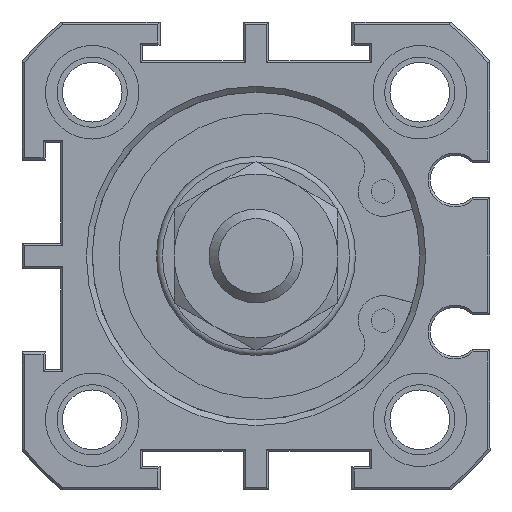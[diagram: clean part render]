
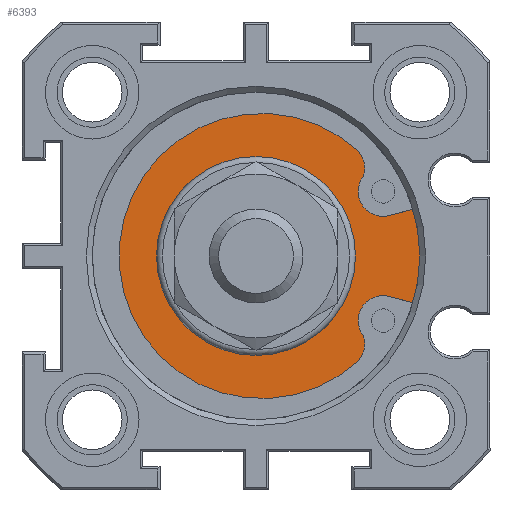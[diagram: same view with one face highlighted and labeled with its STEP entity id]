
A CAD part, front view. The second image highlights one B-rep face of the part: STEP entity #6393.
In plain terms, the highlighted planar face has unit normal (0, -1, 0).
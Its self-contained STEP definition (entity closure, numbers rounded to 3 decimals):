
#40=LINE('',#8650,#408);
#41=LINE('',#8662,#409);
#408=VECTOR('',#7271,1000.);
#409=VECTOR('',#7282,1000.);
#1078=ORIENTED_EDGE('',*,*,#2226,.T.);
#1079=ORIENTED_EDGE('',*,*,#2229,.F.);
#1080=ORIENTED_EDGE('',*,*,#2230,.T.);
#1081=ORIENTED_EDGE('',*,*,#2231,.T.);
#1082=ORIENTED_EDGE('',*,*,#2232,.T.);
#1083=ORIENTED_EDGE('',*,*,#2233,.T.);
#1084=ORIENTED_EDGE('',*,*,#2234,.T.);
#1085=ORIENTED_EDGE('',*,*,#2235,.T.);
#1086=ORIENTED_EDGE('',*,*,#2236,.T.);
#2226=EDGE_CURVE('',#2809,#2809,#3174,.T.);
#2229=EDGE_CURVE('',#2812,#2813,#3177,.T.);
#2230=EDGE_CURVE('',#2812,#2814,#40,.T.);
#2231=EDGE_CURVE('',#2814,#2815,#3178,.T.);
#2232=EDGE_CURVE('',#2815,#2816,#3179,.T.);
#2233=EDGE_CURVE('',#2816,#2817,#3180,.T.);
#2234=EDGE_CURVE('',#2817,#2818,#3181,.T.);
#2235=EDGE_CURVE('',#2818,#2819,#3182,.T.);
#2236=EDGE_CURVE('',#2819,#2813,#41,.T.);
#2809=VERTEX_POINT('',#8639);
#2812=VERTEX_POINT('',#8648);
#2813=VERTEX_POINT('',#8649);
#2814=VERTEX_POINT('',#8651);
#2815=VERTEX_POINT('',#8653);
#2816=VERTEX_POINT('',#8655);
#2817=VERTEX_POINT('',#8657);
#2818=VERTEX_POINT('',#8659);
#2819=VERTEX_POINT('',#8661);
#3174=CIRCLE('',#6722,8.5);
#3177=CIRCLE('',#6728,14.7);
#3178=CIRCLE('',#6729,2.134);
#3179=CIRCLE('',#6730,2.134);
#3180=CIRCLE('',#6731,12.185);
#3181=CIRCLE('',#6732,2.134);
#3182=CIRCLE('',#6733,2.134);
#3349=EDGE_LOOP('',(#1078));
#3350=EDGE_LOOP('',(#1079,#1080,#1081,#1082,#1083,#1084,#1085,#1086));
#3727=FACE_BOUND('',#3349,.T.);
#3728=FACE_BOUND('',#3350,.T.);
#4078=PLANE('',#6727);
#6393=ADVANCED_FACE('',(#3727,#3728),#4078,.F.);
#6722=AXIS2_PLACEMENT_3D('',#8638,#7257,#7258);
#6727=AXIS2_PLACEMENT_3D('',#8646,#7267,#7268);
#6728=AXIS2_PLACEMENT_3D('',#8647,#7269,#7270);
#6729=AXIS2_PLACEMENT_3D('',#8652,#7272,#7273);
#6730=AXIS2_PLACEMENT_3D('',#8654,#7274,#7275);
#6731=AXIS2_PLACEMENT_3D('',#8656,#7276,#7277);
#6732=AXIS2_PLACEMENT_3D('',#8658,#7278,#7279);
#6733=AXIS2_PLACEMENT_3D('',#8660,#7280,#7281);
#7257=DIRECTION('',(0.,1.,0.));
#7258=DIRECTION('',(0.,0.,1.));
#7267=DIRECTION('',(0.,1.,0.));
#7268=DIRECTION('',(0.,0.,1.));
#7269=DIRECTION('',(0.,1.,0.));
#7270=DIRECTION('',(0.,0.,1.));
#7271=DIRECTION('',(-0.966,0.,-0.259));
#7272=DIRECTION('',(0.,1.,0.));
#7273=DIRECTION('',(1.,0.,0.));
#7274=DIRECTION('',(0.,-1.,0.));
#7275=DIRECTION('',(-1.,0.,0.));
#7276=DIRECTION('',(0.,-1.,0.));
#7277=DIRECTION('',(1.,0.,0.));
#7278=DIRECTION('',(0.,-1.,0.));
#7279=DIRECTION('',(-1.,0.,0.));
#7280=DIRECTION('',(0.,1.,0.));
#7281=DIRECTION('',(1.,0.,0.));
#7282=DIRECTION('',(0.966,0.,-0.259));
#8638=CARTESIAN_POINT('',(0.,3.,0.));
#8639=CARTESIAN_POINT('',(0.,3.,8.5));
#8646=CARTESIAN_POINT('',(0.,3.,-2.1));
#8647=CARTESIAN_POINT('',(0.,3.,0.));
#8648=CARTESIAN_POINT('',(14.095,3.,4.175));
#8649=CARTESIAN_POINT('',(14.095,3.,-4.175));
#8650=CARTESIAN_POINT('',(14.095,3.,4.175));
#8651=CARTESIAN_POINT('',(11.419,3.,3.458));
#8652=CARTESIAN_POINT('',(10.866,3.,5.52));
#8653=CARTESIAN_POINT('',(9.146,3.,6.783));
#8654=CARTESIAN_POINT('',(7.151,3.,7.541));
#8655=CARTESIAN_POINT('',(8.751,3.,8.953));
#8656=CARTESIAN_POINT('',(0.486,3.,0.));
#8657=CARTESIAN_POINT('',(8.751,3.,-8.953));
#8658=CARTESIAN_POINT('',(7.151,3.,-7.541));
#8659=CARTESIAN_POINT('',(9.146,3.,-6.783));
#8660=CARTESIAN_POINT('',(10.866,3.,-5.52));
#8661=CARTESIAN_POINT('',(11.419,3.,-3.458));
#8662=CARTESIAN_POINT('',(11.419,3.,-3.458));
